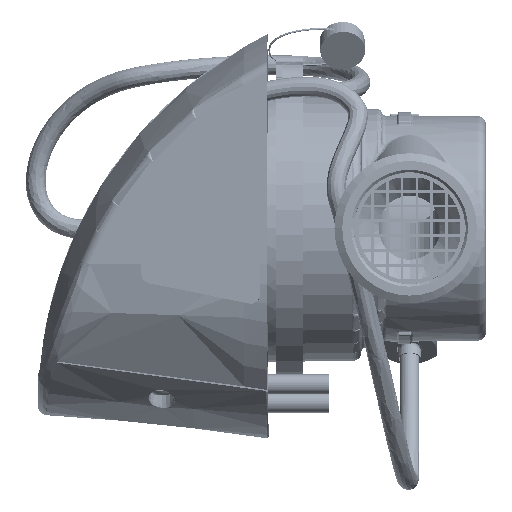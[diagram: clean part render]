
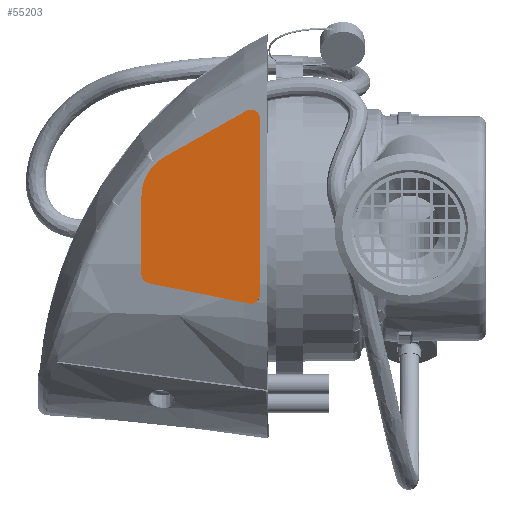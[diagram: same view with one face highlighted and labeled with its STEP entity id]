
A CAD part, left-side view. The second image highlights one B-rep face of the part: STEP entity #55203.
In plain terms, the highlighted planar face has unit normal (-0.995, 0.104, 0).
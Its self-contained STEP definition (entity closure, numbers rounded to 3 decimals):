
#3779 = CIRCLE ( 'NONE', #44297, 2. ) ;
#10618 = EDGE_CURVE ( 'NONE', #94136, #200458, #16521, .T. ) ;
#11179 = CIRCLE ( 'NONE', #65272, 2. ) ;
#11545 = CIRCLE ( 'NONE', #195920, 10. ) ;
#13740 = VECTOR ( 'NONE', #108855, 1000. ) ;
#15887 = DIRECTION ( 'NONE',  ( -0.995, 0.105, 0. ) ) ;
#16521 = LINE ( 'NONE', #272820, #106458 ) ;
#18996 = PLANE ( 'NONE',  #112525 ) ;
#27329 = EDGE_CURVE ( 'NONE', #275020, #102981, #3779, .T. ) ;
#28542 = EDGE_CURVE ( 'NONE', #88461, #223958, #276249, .T. ) ;
#29996 = CARTESIAN_POINT ( 'NONE',  ( -38.438, 52.261, -14.765 ) ) ;
#30531 = CARTESIAN_POINT ( 'NONE',  ( -38.438, 52.261, -16.765 ) ) ;
#31518 = CARTESIAN_POINT ( 'NONE',  ( -38.438, 52.261, 24.384 ) ) ;
#33875 = VERTEX_POINT ( 'NONE', #266326 ) ;
#35903 = VECTOR ( 'NONE', #246066, 1000. ) ;
#41043 = EDGE_CURVE ( 'NONE', #69275, #44867, #199642, .T. ) ;
#43585 = CARTESIAN_POINT ( 'NONE',  ( -36.415, 71.507, 15.856 ) ) ;
#44297 = AXIS2_PLACEMENT_3D ( 'NONE', #29996, #239848, #47043 ) ;
#44867 = VERTEX_POINT ( 'NONE', #57496 ) ;
#47043 = DIRECTION ( 'NONE',  ( 0., 0., -1. ) ) ;
#47662 = CARTESIAN_POINT ( 'NONE',  ( -38.438, 52.261, -14.765 ) ) ;
#55203 = ADVANCED_FACE ( 'NONE', ( #57323 ), #18996, .T. ) ;
#57323 = FACE_OUTER_BOUND ( 'NONE', #191964, .T. ) ;
#57496 = CARTESIAN_POINT ( 'NONE',  ( -38.647, 50.272, 24.384 ) ) ;
#61997 = ORIENTED_EDGE ( 'NONE', *, *, #27329, .T. ) ;
#65272 = AXIS2_PLACEMENT_3D ( 'NONE', #225165, #116880, #244869 ) ;
#69275 = VERTEX_POINT ( 'NONE', #230197 ) ;
#77386 = DIRECTION ( 'NONE',  ( 0.091, 0.868, -0.488 ) ) ;
#78073 = CIRCLE ( 'NONE', #136482, 2. ) ;
#83359 = ORIENTED_EDGE ( 'NONE', *, *, #198429, .T. ) ;
#85635 = VECTOR ( 'NONE', #114497, 1000. ) ;
#86873 = AXIS2_PLACEMENT_3D ( 'NONE', #31518, #15887, #253892 ) ;
#88461 = VERTEX_POINT ( 'NONE', #164444 ) ;
#93371 = CARTESIAN_POINT ( 'NONE',  ( -36.048, 75.002, -12.215 ) ) ;
#94136 = VERTEX_POINT ( 'NONE', #165823 ) ;
#102796 = EDGE_CURVE ( 'NONE', #223958, #33875, #11179, .T. ) ;
#102981 = VERTEX_POINT ( 'NONE', #30531 ) ;
#106178 = ORIENTED_EDGE ( 'NONE', *, *, #237730, .T. ) ;
#106458 = VECTOR ( 'NONE', #77386, 1000. ) ;
#108855 = DIRECTION ( 'NONE',  ( 0., 0., -1. ) ) ;
#112525 = AXIS2_PLACEMENT_3D ( 'NONE', #216175, #151469, #148664 ) ;
#112722 = EDGE_CURVE ( 'NONE', #44867, #94136, #239634, .T. ) ;
#114497 = DIRECTION ( 'NONE',  ( -0.102, -0.975, -0.197 ) ) ;
#116880 = DIRECTION ( 'NONE',  ( -0.995, 0.105, 0. ) ) ;
#124989 = DIRECTION ( 'NONE',  ( 0., 0., 1. ) ) ;
#129119 = DIRECTION ( 'NONE',  ( -0.995, 0.105, 0. ) ) ;
#136482 = AXIS2_PLACEMENT_3D ( 'NONE', #47662, #178526, #261634 ) ;
#145379 = ORIENTED_EDGE ( 'NONE', *, *, #41043, .T. ) ;
#146283 = ORIENTED_EDGE ( 'NONE', *, *, #262058, .T. ) ;
#148664 = DIRECTION ( 'NONE',  ( 0., 0., 1. ) ) ;
#150444 = ORIENTED_EDGE ( 'NONE', *, *, #10618, .T. ) ;
#151469 = DIRECTION ( 'NONE',  ( -0.995, 0.105, 0. ) ) ;
#154016 = CARTESIAN_POINT ( 'NONE',  ( -38.397, 52.653, -16.726 ) ) ;
#164444 = CARTESIAN_POINT ( 'NONE',  ( -35.88, 76.599, 7.127 ) ) ;
#165823 = CARTESIAN_POINT ( 'NONE',  ( -38.336, 53.232, 26.13 ) ) ;
#172185 = CARTESIAN_POINT ( 'NONE',  ( -35.88, 76.599, -10.254 ) ) ;
#175958 = CARTESIAN_POINT ( 'NONE',  ( -35.88, 76.599, -10.254 ) ) ;
#178526 = DIRECTION ( 'NONE',  ( -0.995, 0.105, 0. ) ) ;
#191964 = EDGE_LOOP ( 'NONE', ( #106178, #198731, #211180, #83359, #61997, #146283, #145379, #198361, #150444 ) ) ;
#195920 = AXIS2_PLACEMENT_3D ( 'NONE', #238809, #129119, #124989 ) ;
#198250 = CARTESIAN_POINT ( 'NONE',  ( -38.647, 50.272, -14.765 ) ) ;
#198361 = ORIENTED_EDGE ( 'NONE', *, *, #112722, .T. ) ;
#198429 = EDGE_CURVE ( 'NONE', #33875, #275020, #203035, .T. ) ;
#198731 = ORIENTED_EDGE ( 'NONE', *, *, #28542, .T. ) ;
#199642 = LINE ( 'NONE', #198250, #35903 ) ;
#200458 = VERTEX_POINT ( 'NONE', #43585 ) ;
#203035 = LINE ( 'NONE', #93371, #85635 ) ;
#211180 = ORIENTED_EDGE ( 'NONE', *, *, #102796, .T. ) ;
#216175 = CARTESIAN_POINT ( 'NONE',  ( -36.925, 66.654, 7.127 ) ) ;
#223958 = VERTEX_POINT ( 'NONE', #175958 ) ;
#225165 = CARTESIAN_POINT ( 'NONE',  ( -36.089, 74.61, -10.254 ) ) ;
#230197 = CARTESIAN_POINT ( 'NONE',  ( -38.647, 50.272, -14.765 ) ) ;
#237730 = EDGE_CURVE ( 'NONE', #200458, #88461, #11545, .T. ) ;
#238809 = CARTESIAN_POINT ( 'NONE',  ( -36.925, 66.654, 7.127 ) ) ;
#239634 = CIRCLE ( 'NONE', #86873, 2. ) ;
#239848 = DIRECTION ( 'NONE',  ( -0.995, 0.105, 0. ) ) ;
#244869 = DIRECTION ( 'NONE',  ( 0., 0., 1. ) ) ;
#246066 = DIRECTION ( 'NONE',  ( 0., 0., 1. ) ) ;
#253892 = DIRECTION ( 'NONE',  ( 0., 0., 1. ) ) ;
#261634 = DIRECTION ( 'NONE',  ( 0., 0., -1. ) ) ;
#262058 = EDGE_CURVE ( 'NONE', #102981, #69275, #78073, .T. ) ;
#266326 = CARTESIAN_POINT ( 'NONE',  ( -36.048, 75.002, -12.215 ) ) ;
#272820 = CARTESIAN_POINT ( 'NONE',  ( -36.415, 71.507, 15.856 ) ) ;
#275020 = VERTEX_POINT ( 'NONE', #154016 ) ;
#276249 = LINE ( 'NONE', #172185, #13740 ) ;
